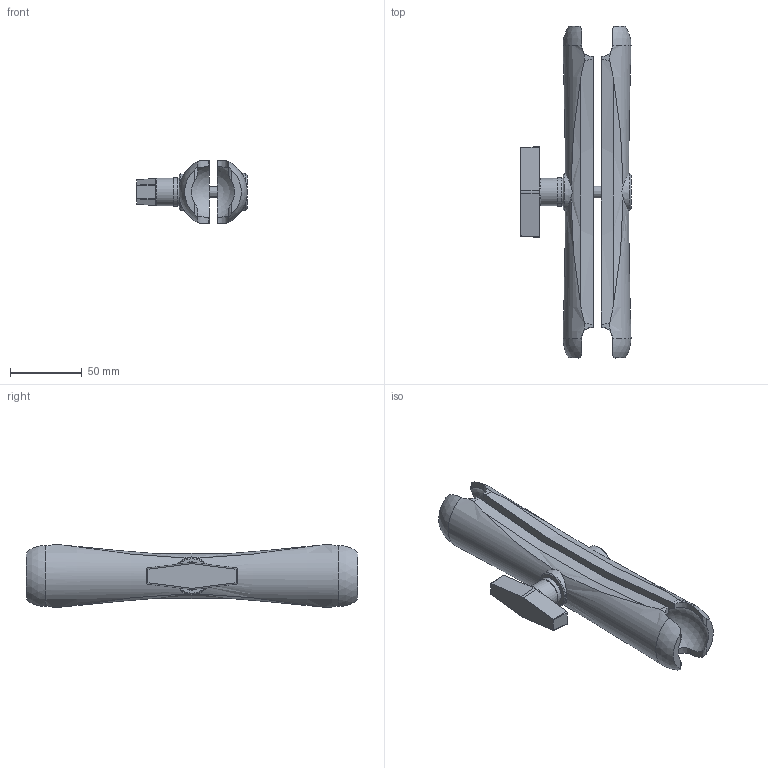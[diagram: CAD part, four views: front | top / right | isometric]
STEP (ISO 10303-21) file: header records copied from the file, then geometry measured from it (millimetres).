
FILE_DESCRIPTION(/* description */ ('STEP AP203'),/* implementation_level */ '2;1');
FILE_NAME(/* name */ 'EC1413',/* time_stamp */ '2022-05-31T10:42:07+02:00',/* author */ ('License CC BY-ND 4.0'),/* organization */ ('CADENAS'),/* preprocessor_version */ 'ST-DEVELOPER v18.102',/* originating_system */ 'PARTsolutions',/* authorisation */ ' ');
FILE_SCHEMA (('CONFIG_CONTROL_DESIGN'));
Length unit declared in the file: millimetre
Products named in the file (1): EC1413
Bounding box: 76.76 x 231 x 43.43 mm (x, y, z)
Volume: 247208.9 mm3; surface area: 51654.7 mm2
Topology: 1 solids, 1 shells, 101 faces, 272 edges, 178 vertices
Faces by surface type: plane 49, cylinder 20, torus 12, sphere 12, cone 8
Full cylindrical faces by diameter (mm): 7.925 x1, 19.05 x2, 19.812 x1
Entity records: 3360 total; most frequent: CARTESIAN_POINT 908, ORIENTED_EDGE 522, DIRECTION 482, EDGE_CURVE 261, AXIS2_PLACEMENT_3D 195, VERTEX_POINT 175, EDGE_LOOP 114, FACE_BOUND 114
